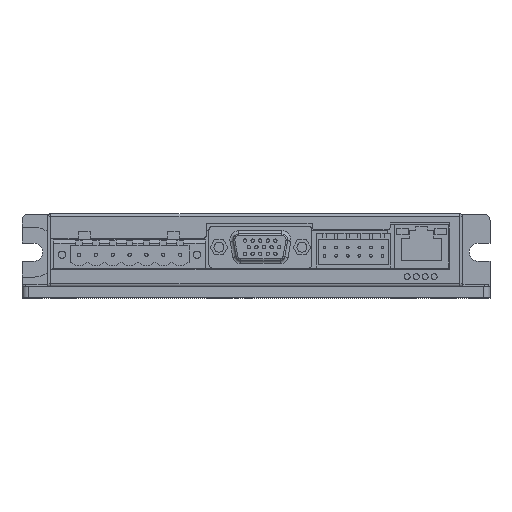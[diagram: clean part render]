
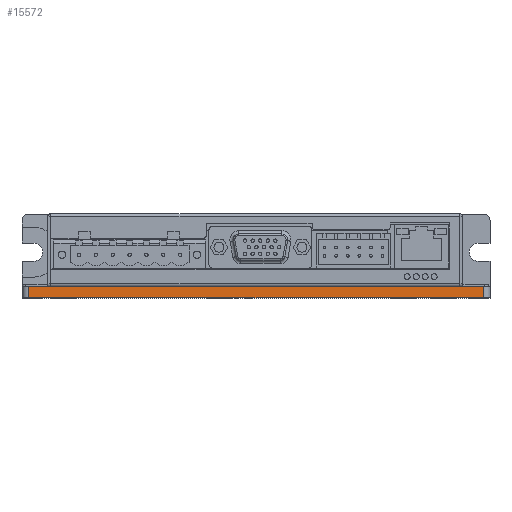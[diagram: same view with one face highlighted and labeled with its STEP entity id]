
A CAD part, top view. The second image highlights one B-rep face of the part: STEP entity #15572.
In plain terms, the highlighted planar face has unit normal (0, 0, 1) as drawn and (1, 0, 0) by its records, which use the part's own axes.
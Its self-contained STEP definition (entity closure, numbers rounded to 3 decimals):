
#14585=DIRECTION('',(0.,0.,1.));
#14586=VECTOR('',#14585,137.);
#14587=CARTESIAN_POINT('',(75.5,3.4,-68.5));
#14588=LINE('',#14587,#14586);
#14655=DIRECTION('',(0.,1.,0.));
#14656=VECTOR('',#14655,3.4);
#14657=CARTESIAN_POINT('',(75.5,0.,68.5));
#14658=LINE('',#14657,#14656);
#14659=DIRECTION('',(0.,-1.,0.));
#14660=VECTOR('',#14659,3.4);
#14661=CARTESIAN_POINT('',(75.5,3.4,-68.5));
#14662=LINE('',#14661,#14660);
#14663=DIRECTION('',(0.,0.,1.));
#14664=VECTOR('',#14663,137.);
#14665=CARTESIAN_POINT('',(75.5,0.,-68.5));
#14666=LINE('',#14665,#14664);
#14970=CARTESIAN_POINT('',(75.5,3.4,68.5));
#14972=VERTEX_POINT('',#14970);
#14973=CARTESIAN_POINT('',(75.5,0.,68.5));
#14974=VERTEX_POINT('',#14973);
#14978=CARTESIAN_POINT('',(75.5,0.,-68.5));
#14980=VERTEX_POINT('',#14978);
#14981=CARTESIAN_POINT('',(75.5,3.4,-68.5));
#14982=VERTEX_POINT('',#14981);
#15560=CARTESIAN_POINT('',(75.5,0.,-70.5));
#15561=DIRECTION('',(1.,0.,0.));
#15562=DIRECTION('',(0.,1.,0.));
#15563=AXIS2_PLACEMENT_3D('',#15560,#15561,#15562);
#15564=PLANE('',#15563);
#15565=ORIENTED_EDGE('',*,*,#15552,.T.);
#15566=ORIENTED_EDGE('',*,*,#15307,.F.);
#15568=ORIENTED_EDGE('',*,*,#15567,.T.);
#15569=ORIENTED_EDGE('',*,*,#15171,.T.);
#15570=EDGE_LOOP('',(#15565,#15566,#15568,#15569));
#15571=FACE_OUTER_BOUND('',#15570,.F.);
#15572=ADVANCED_FACE('',(#15571),#15564,.T.);
#15171=EDGE_CURVE('',#14980,#14974,#14666,.T.);
#15307=EDGE_CURVE('',#14982,#14972,#14588,.T.);
#15552=EDGE_CURVE('',#14974,#14972,#14658,.T.);
#15567=EDGE_CURVE('',#14982,#14980,#14662,.T.);
